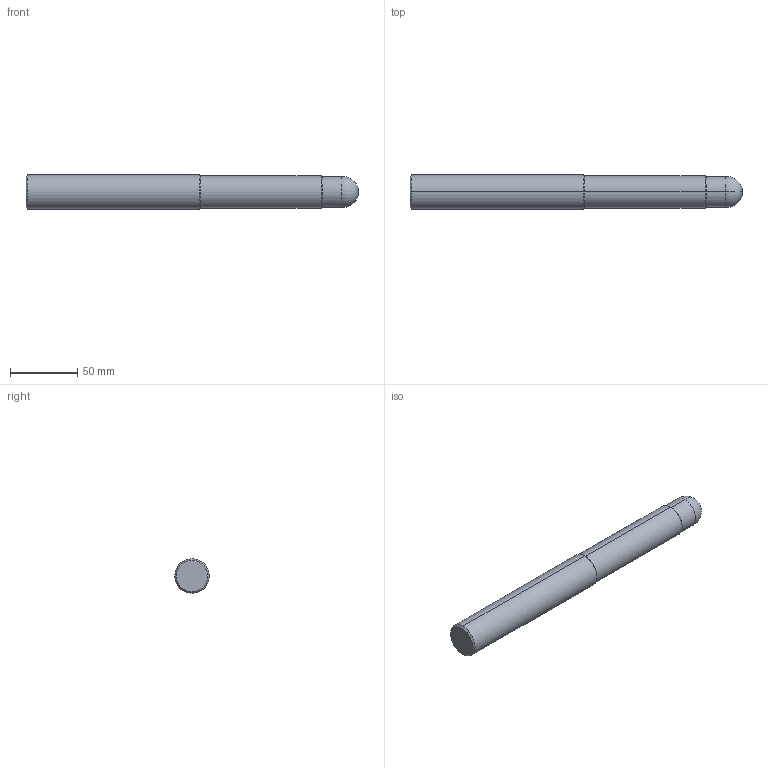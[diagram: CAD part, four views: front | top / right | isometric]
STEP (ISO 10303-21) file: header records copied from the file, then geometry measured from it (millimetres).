
FILE_DESCRIPTION (( 'STEP AP214' ), '1' );
FILE_NAME ('01-0236.STEP', '2021-02-10T00:12:19', ( 'USER' ), ( '' ), 'SwSTEP 2.0', 'SolidWorks 2018', '' );
FILE_SCHEMA (( 'AUTOMOTIVE_DESIGN' ));
Length unit declared in the file: millimetre
Products named in the file (2): 01-0236
Bounding box: 247.6 x 25.7 x 25.7 mm (x, y, z)
Volume: 119529.4 mm3; surface area: 19926.5 mm2
Topology: 1 solids, 1 shells, 16 faces, 30 edges, 16 vertices
Faces by surface type: cone 6, cylinder 6, torus 2, plane 2
Entity records: 445 total; most frequent: DIRECTION 84, CARTESIAN_POINT 64, ORIENTED_EDGE 60, AXIS2_PLACEMENT_3D 36, EDGE_CURVE 30, CIRCLE 18, FACE_OUTER_BOUND 16, ADVANCED_FACE 16
